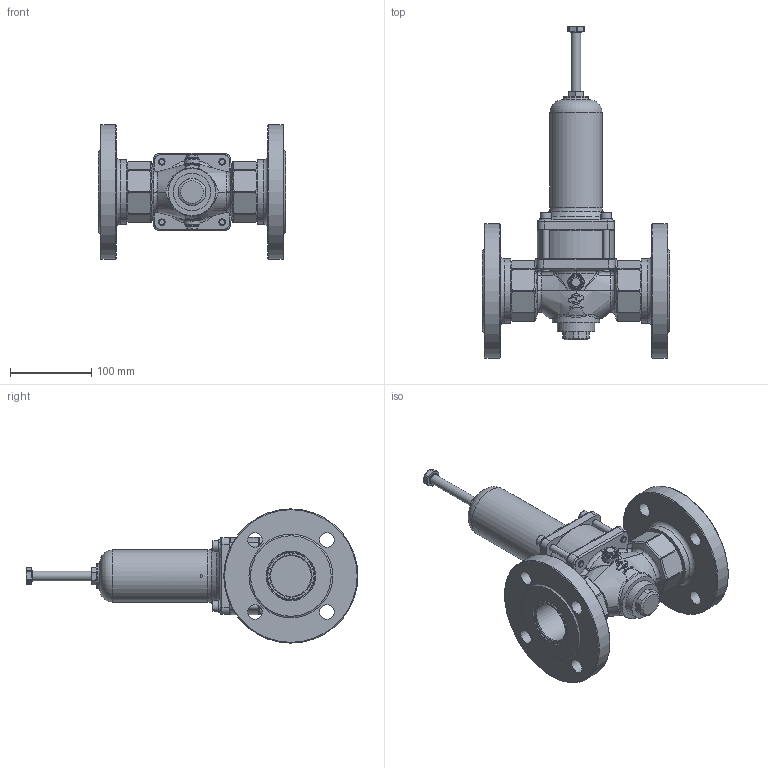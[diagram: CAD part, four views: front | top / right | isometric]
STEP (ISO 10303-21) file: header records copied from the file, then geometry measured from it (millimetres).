
FILE_DESCRIPTION(/* description */ (''),/* implementation_level */ '2;1');
FILE_NAME(/* name */ 'U:/AirCom-Produktdokumentation/Druckregler/RWF/Zeichnungen/CAD-Aircom/3D/B-RWF-16G.step',/* time_stamp */ '2022-07-04T16:08:09+02:00',/* author */ (''),/* organization */ (''),/* preprocessor_version */ 'ST-DEVELOPER v19',/* originating_system */ 'Autodesk Translation Framework v11.7.0.108',/* authorisation */ '');
FILE_SCHEMA (('AUTOMOTIVE_DESIGN { 1 0 10303 214 3 1 1 }'));
Products named in the file (1): 052507_step
Bounding box: 230 x 408 x 165 mm (x, y, z)
Volume: 2357908.8 mm3; surface area: 245923.1 mm2
Topology: 1 solids, 1 shells, 682 faces, 1788 edges, 1140 vertices
Faces by surface type: plane 253, bspline 211, cylinder 129, cone 55, torus 20, sphere 14
Full cylindrical faces by diameter (mm): 3 x1, 8 x8, 8.5 x4, 12 x1, 13 x4, 14 x1, 16.5 x2, 18 x8, 30 x1, 46 x1, 50 x2, 58 x1, 64 x1, 78.1 x1, 79 x2, 83.9 x1, 84 x1, 95 x1, 165 x2
Entity records: 104725 total; most frequent: CARTESIAN_POINT 89479, ORIENTED_EDGE 3552, DIRECTION 2635, EDGE_CURVE 1776, VERTEX_POINT 1140, AXIS2_PLACEMENT_3D 1071, EDGE_LOOP 759, FACE_OUTER_BOUND 682
